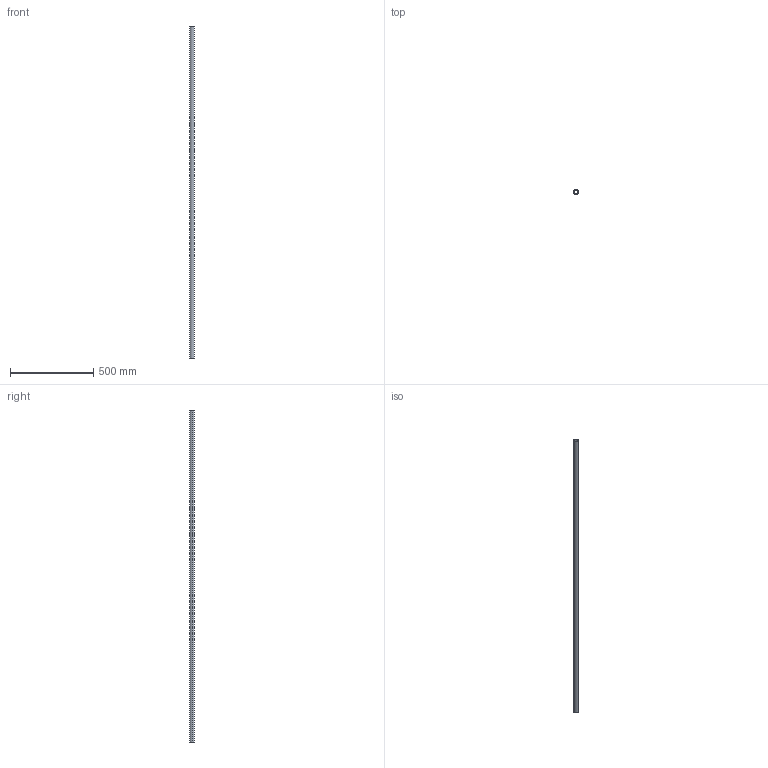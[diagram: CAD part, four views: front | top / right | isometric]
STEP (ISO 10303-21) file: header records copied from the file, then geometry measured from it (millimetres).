
FILE_DESCRIPTION (( 'STEP AP214' ), '1' );
FILE_NAME ('PAT30-2000.STEP', '2022-12-13T00:48:38', ( '' ), ( '' ), 'SwSTEP 2.0', 'SolidWorks 2018', '' );
FILE_SCHEMA (( 'AUTOMOTIVE_DESIGN' ));
Length unit declared in the file: millimetre
Products named in the file (1): PAT30-2000
Bounding box: 30 x 30 x 2000 mm (x, y, z)
Volume: 431969 mm3; surface area: 346007.2 mm2
Topology: 1 solids, 1 shells, 6 faces, 12 edges, 8 vertices
Faces by surface type: cylinder 4, plane 2
Entity records: 202 total; most frequent: DIRECTION 34, CARTESIAN_POINT 27, ORIENTED_EDGE 24, AXIS2_PLACEMENT_3D 15, EDGE_CURVE 12, EDGE_LOOP 8, CIRCLE 8, VERTEX_POINT 8
